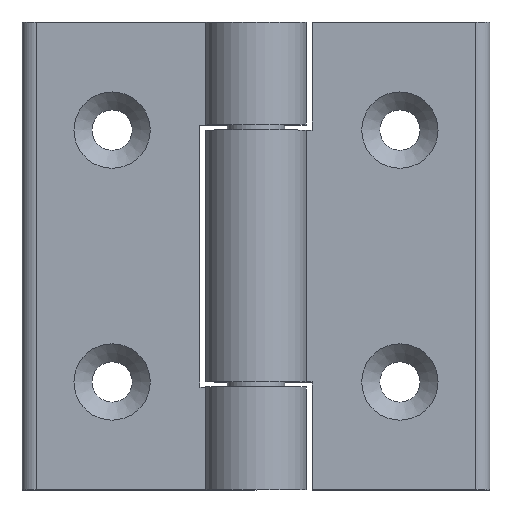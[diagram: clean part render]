
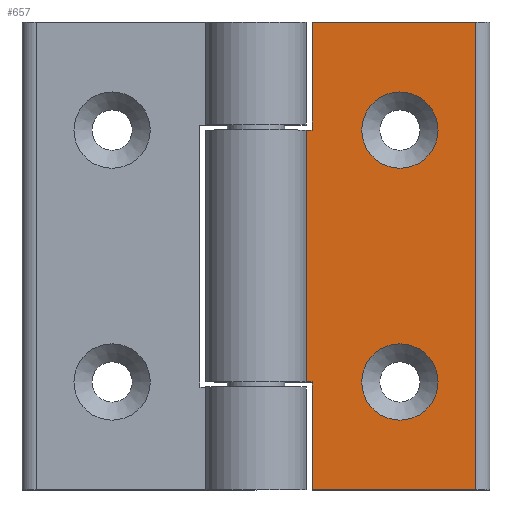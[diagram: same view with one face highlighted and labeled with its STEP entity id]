
A CAD part, top view. The second image highlights one B-rep face of the part: STEP entity #657.
In plain terms, the highlighted planar face has unit normal (0, 0, 1).
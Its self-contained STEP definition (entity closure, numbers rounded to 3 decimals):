
#67=LINE('',#1040,#120);
#69=LINE('',#1048,#122);
#70=LINE('',#1051,#123);
#71=LINE('',#1053,#124);
#72=LINE('',#1055,#125);
#73=LINE('',#1057,#126);
#74=LINE('',#1059,#127);
#75=LINE('',#1060,#128);
#120=VECTOR('',#832,1000.);
#122=VECTOR('',#840,1000.);
#123=VECTOR('',#841,1000.);
#124=VECTOR('',#842,1000.);
#125=VECTOR('',#843,1000.);
#126=VECTOR('',#844,1000.);
#127=VECTOR('',#845,1000.);
#128=VECTOR('',#846,1000.);
#181=ORIENTED_EDGE('',*,*,#345,.T.);
#182=ORIENTED_EDGE('',*,*,#346,.T.);
#183=ORIENTED_EDGE('',*,*,#347,.F.);
#184=ORIENTED_EDGE('',*,*,#348,.T.);
#185=ORIENTED_EDGE('',*,*,#349,.F.);
#186=ORIENTED_EDGE('',*,*,#350,.F.);
#187=ORIENTED_EDGE('',*,*,#351,.F.);
#188=ORIENTED_EDGE('',*,*,#352,.F.);
#189=ORIENTED_EDGE('',*,*,#343,.T.);
#190=ORIENTED_EDGE('',*,*,#353,.F.);
#343=EDGE_CURVE('',#425,#424,#67,.T.);
#345=EDGE_CURVE('',#426,#426,#478,.T.);
#346=EDGE_CURVE('',#427,#427,#479,.T.);
#347=EDGE_CURVE('',#428,#429,#69,.T.);
#348=EDGE_CURVE('',#428,#430,#70,.T.);
#349=EDGE_CURVE('',#431,#430,#71,.T.);
#350=EDGE_CURVE('',#432,#431,#72,.T.);
#351=EDGE_CURVE('',#433,#432,#73,.T.);
#352=EDGE_CURVE('',#425,#433,#74,.T.);
#353=EDGE_CURVE('',#429,#424,#75,.T.);
#424=VERTEX_POINT('',#1039);
#425=VERTEX_POINT('',#1041);
#426=VERTEX_POINT('',#1045);
#427=VERTEX_POINT('',#1047);
#428=VERTEX_POINT('',#1049);
#429=VERTEX_POINT('',#1050);
#430=VERTEX_POINT('',#1052);
#431=VERTEX_POINT('',#1054);
#432=VERTEX_POINT('',#1056);
#433=VERTEX_POINT('',#1058);
#478=CIRCLE('',#740,5.3);
#479=CIRCLE('',#741,5.3);
#509=EDGE_LOOP('',(#181));
#510=EDGE_LOOP('',(#182));
#511=EDGE_LOOP('',(#183,#184,#185,#186,#187,#188,#189,#190));
#574=FACE_BOUND('',#509,.T.);
#575=FACE_BOUND('',#510,.T.);
#576=FACE_BOUND('',#511,.T.);
#636=PLANE('',#739);
#657=ADVANCED_FACE('',(#574,#575,#576),#636,.F.);
#739=AXIS2_PLACEMENT_3D('',#1043,#834,#835);
#740=AXIS2_PLACEMENT_3D('',#1044,#836,#837);
#741=AXIS2_PLACEMENT_3D('',#1046,#838,#839);
#832=DIRECTION('',(0.,-1.,0.));
#834=DIRECTION('',(0.,0.,-1.));
#835=DIRECTION('',(-1.,0.,0.));
#836=DIRECTION('',(0.,0.,-1.));
#837=DIRECTION('',(-1.,0.,0.));
#838=DIRECTION('',(0.,0.,-1.));
#839=DIRECTION('',(-1.,0.,0.));
#840=DIRECTION('',(0.,1.,0.));
#841=DIRECTION('',(1.,0.,0.));
#842=DIRECTION('',(0.,-1.,0.));
#843=DIRECTION('',(1.,0.,0.));
#844=DIRECTION('',(0.,1.,0.));
#845=DIRECTION('',(1.,0.,0.));
#846=DIRECTION('',(-1.,0.,0.));
#1039=CARTESIAN_POINT('',(7.,-17.5,5.));
#1040=CARTESIAN_POINT('',(7.,32.5,5.));
#1041=CARTESIAN_POINT('',(7.,17.5,5.));
#1043=CARTESIAN_POINT('',(7.,32.5,5.));
#1044=CARTESIAN_POINT('',(20.,-17.5,5.));
#1045=CARTESIAN_POINT('',(14.7,-17.5,5.));
#1046=CARTESIAN_POINT('',(20.,17.5,5.));
#1047=CARTESIAN_POINT('',(14.7,17.5,5.));
#1048=CARTESIAN_POINT('',(7.8,32.5,5.));
#1049=CARTESIAN_POINT('',(7.8,-32.5,5.));
#1050=CARTESIAN_POINT('',(7.8,-17.5,5.));
#1051=CARTESIAN_POINT('',(7.,-32.5,5.));
#1052=CARTESIAN_POINT('',(30.5,-32.5,5.));
#1053=CARTESIAN_POINT('',(30.5,32.5,5.));
#1054=CARTESIAN_POINT('',(30.5,32.5,5.));
#1055=CARTESIAN_POINT('',(7.,32.5,5.));
#1056=CARTESIAN_POINT('',(7.8,32.5,5.));
#1057=CARTESIAN_POINT('',(7.8,32.5,5.));
#1058=CARTESIAN_POINT('',(7.8,17.5,5.));
#1059=CARTESIAN_POINT('',(7.,17.5,5.));
#1060=CARTESIAN_POINT('',(7.,-17.5,5.));
